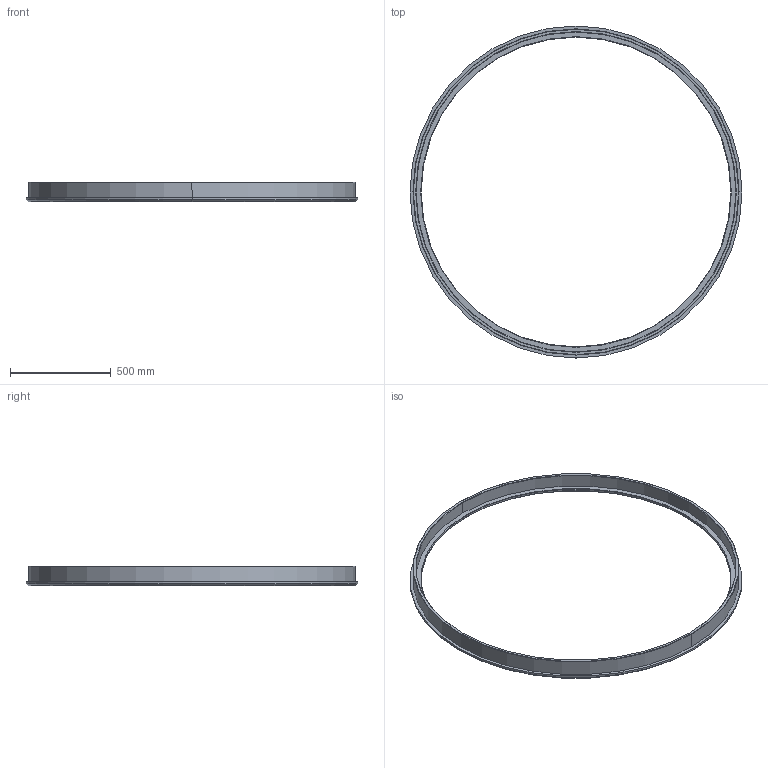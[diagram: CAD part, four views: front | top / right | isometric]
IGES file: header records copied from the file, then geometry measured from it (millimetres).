
Start section:  PTC IGES file: sob_flange.igs
Global section: file name: sob_flange.igs; native system: Pro/ENGINEER by Parametric Technology Corporation; preprocessor: 1999260; author: oshatz; organization: Unknown; date: 000922.101712; units: millimetre
Bounding box: 1644 x 1644 x 98 mm (x, y, z)
Surface area: 1451329.6 mm2 (no closed solid volume)
Topology: 0 solids, 0 shells, 27 faces, 108 edges, 108 vertices
Faces by surface type: revolution 22, bspline 5
